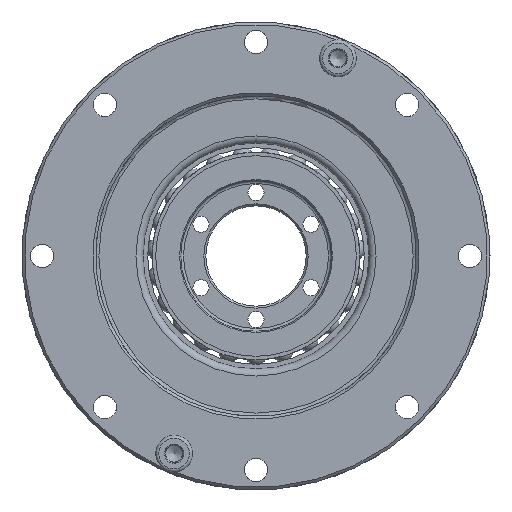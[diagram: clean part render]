
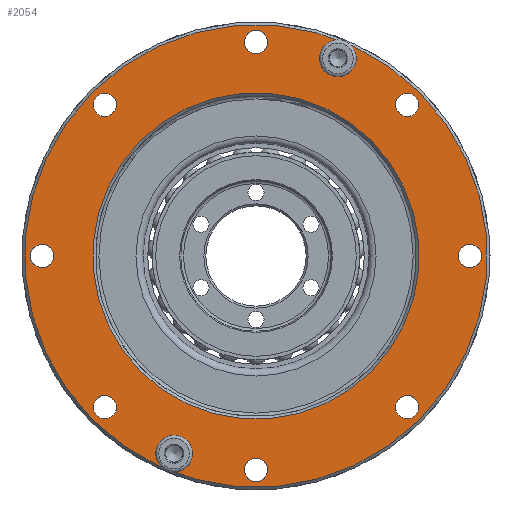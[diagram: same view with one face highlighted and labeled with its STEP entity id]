
A CAD part, left-side view. The second image highlights one B-rep face of the part: STEP entity #2054.
In plain terms, the highlighted planar face has unit normal (-1, 0, 0).
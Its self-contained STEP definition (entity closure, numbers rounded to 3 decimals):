
#2054=ADVANCED_FACE('',(#2852,#2853,#2854,#2855,#2856,#2857,#2858,#2859,
#2860,#2861,#2862,#2863),#2593,.T.);
#2593=PLANE('',#9055);
#2852=FACE_BOUND('',#3449,.T.);
#2853=FACE_BOUND('',#3450,.T.);
#2854=FACE_BOUND('',#3451,.T.);
#2855=FACE_BOUND('',#3452,.T.);
#2856=FACE_BOUND('',#3453,.T.);
#2857=FACE_BOUND('',#3454,.T.);
#2858=FACE_BOUND('',#3455,.T.);
#2859=FACE_BOUND('',#3456,.T.);
#2860=FACE_BOUND('',#3457,.T.);
#2861=FACE_BOUND('',#3458,.T.);
#2862=FACE_BOUND('',#3459,.T.);
#2863=FACE_BOUND('',#3460,.T.);
#3449=EDGE_LOOP('',(#4318));
#3450=EDGE_LOOP('',(#4319));
#3451=EDGE_LOOP('',(#4320));
#3452=EDGE_LOOP('',(#4321));
#3453=EDGE_LOOP('',(#4322));
#3454=EDGE_LOOP('',(#4323));
#3455=EDGE_LOOP('',(#4324));
#3456=EDGE_LOOP('',(#4325));
#3457=EDGE_LOOP('',(#4326));
#3458=EDGE_LOOP('',(#4327));
#3459=EDGE_LOOP('',(#4328));
#3460=EDGE_LOOP('',(#4329));
#4318=ORIENTED_EDGE('',*,*,#7326,.T.);
#4319=ORIENTED_EDGE('',*,*,#7328,.T.);
#4320=ORIENTED_EDGE('',*,*,#7330,.T.);
#4321=ORIENTED_EDGE('',*,*,#7332,.T.);
#4322=ORIENTED_EDGE('',*,*,#7334,.T.);
#4323=ORIENTED_EDGE('',*,*,#7336,.T.);
#4324=ORIENTED_EDGE('',*,*,#7338,.T.);
#4325=ORIENTED_EDGE('',*,*,#7340,.T.);
#4326=ORIENTED_EDGE('',*,*,#7342,.T.);
#4327=ORIENTED_EDGE('',*,*,#7344,.T.);
#4328=ORIENTED_EDGE('',*,*,#7350,.T.);
#4329=ORIENTED_EDGE('',*,*,#7347,.T.);
#6476=VERTEX_POINT('',#11940);
#6478=VERTEX_POINT('',#11945);
#6480=VERTEX_POINT('',#11950);
#6482=VERTEX_POINT('',#11955);
#6484=VERTEX_POINT('',#11960);
#6486=VERTEX_POINT('',#11965);
#6488=VERTEX_POINT('',#11970);
#6490=VERTEX_POINT('',#11975);
#6492=VERTEX_POINT('',#11980);
#6494=VERTEX_POINT('',#11985);
#6497=VERTEX_POINT('',#11993);
#6500=VERTEX_POINT('',#12000);
#7326=EDGE_CURVE('',#6476,#6476,#8446,.T.);
#7328=EDGE_CURVE('',#6478,#6478,#8448,.T.);
#7330=EDGE_CURVE('',#6480,#6480,#8450,.T.);
#7332=EDGE_CURVE('',#6482,#6482,#8452,.T.);
#7334=EDGE_CURVE('',#6484,#6484,#8454,.T.);
#7336=EDGE_CURVE('',#6486,#6486,#8456,.T.);
#7338=EDGE_CURVE('',#6488,#6488,#8458,.T.);
#7340=EDGE_CURVE('',#6490,#6490,#8460,.T.);
#7342=EDGE_CURVE('',#6492,#6492,#8462,.T.);
#7344=EDGE_CURVE('',#6494,#6494,#8464,.T.);
#7347=EDGE_CURVE('',#6497,#6497,#8467,.T.);
#7350=EDGE_CURVE('',#6500,#6500,#8470,.T.);
#8446=CIRCLE('',#9010,1.75);
#8448=CIRCLE('',#9013,1.75);
#8450=CIRCLE('',#9016,1.75);
#8452=CIRCLE('',#9019,1.75);
#8454=CIRCLE('',#9022,1.75);
#8456=CIRCLE('',#9025,1.75);
#8458=CIRCLE('',#9028,1.75);
#8460=CIRCLE('',#9031,1.75);
#8462=CIRCLE('',#9034,1.75);
#8464=CIRCLE('',#9037,1.75);
#8467=CIRCLE('',#9042,24.4);
#8470=CIRCLE('',#9046,34.6);
#9010=AXIS2_PLACEMENT_3D('',#11939,#9993,#9994);
#9013=AXIS2_PLACEMENT_3D('',#11944,#9999,#10000);
#9016=AXIS2_PLACEMENT_3D('',#11949,#10005,#10006);
#9019=AXIS2_PLACEMENT_3D('',#11954,#10011,#10012);
#9022=AXIS2_PLACEMENT_3D('',#11959,#10017,#10018);
#9025=AXIS2_PLACEMENT_3D('',#11964,#10023,#10024);
#9028=AXIS2_PLACEMENT_3D('',#11969,#10029,#10030);
#9031=AXIS2_PLACEMENT_3D('',#11974,#10035,#10036);
#9034=AXIS2_PLACEMENT_3D('',#11979,#10041,#10042);
#9037=AXIS2_PLACEMENT_3D('',#11984,#10047,#10048);
#9042=AXIS2_PLACEMENT_3D('',#11992,#10057,#10058);
#9046=AXIS2_PLACEMENT_3D('',#11999,#10065,#10066);
#9055=AXIS2_PLACEMENT_3D('',#12012,#10083,#10084);
#9993=DIRECTION('',(1.,0.,0.));
#9994=DIRECTION('',(0.,0.707,-0.707));
#9999=DIRECTION('',(1.,0.,0.));
#10000=DIRECTION('',(0.,0.707,-0.707));
#10005=DIRECTION('',(1.,0.,0.));
#10006=DIRECTION('',(0.,0.707,-0.707));
#10011=DIRECTION('',(1.,0.,0.));
#10012=DIRECTION('',(0.,0.707,-0.707));
#10017=DIRECTION('',(1.,0.,0.));
#10018=DIRECTION('',(0.,0.707,-0.707));
#10023=DIRECTION('',(1.,0.,0.));
#10024=DIRECTION('',(0.,0.707,-0.707));
#10029=DIRECTION('',(1.,0.,0.));
#10030=DIRECTION('',(0.,0.707,-0.707));
#10035=DIRECTION('',(1.,0.,0.));
#10036=DIRECTION('',(0.,0.707,-0.707));
#10041=DIRECTION('',(1.,0.,0.));
#10042=DIRECTION('',(0.,0.707,-0.707));
#10047=DIRECTION('',(1.,0.,0.));
#10048=DIRECTION('',(0.,0.707,-0.707));
#10057=DIRECTION('',(1.,0.,0.));
#10058=DIRECTION('',(0.,-0.707,0.707));
#10065=DIRECTION('',(-1.,0.,0.));
#10066=DIRECTION('',(0.,-0.707,0.707));
#10083=DIRECTION('',(-1.,0.,0.));
#10084=DIRECTION('',(0.,-0.707,0.707));
#11939=CARTESIAN_POINT('',(-23.5,12.246,-29.564));
#11940=CARTESIAN_POINT('',(-23.5,13.483,-30.802));
#11944=CARTESIAN_POINT('',(-23.5,-12.246,29.564));
#11945=CARTESIAN_POINT('',(-23.5,-11.008,28.327));
#11949=CARTESIAN_POINT('',(-23.5,32.,0.));
#11950=CARTESIAN_POINT('',(-23.5,33.237,-1.237));
#11954=CARTESIAN_POINT('',(-23.5,22.627,-22.627));
#11955=CARTESIAN_POINT('',(-23.5,23.865,-23.865));
#11959=CARTESIAN_POINT('',(-23.5,0.,-32.));
#11960=CARTESIAN_POINT('',(-23.5,1.237,-33.237));
#11964=CARTESIAN_POINT('',(-23.5,-22.627,-22.627));
#11965=CARTESIAN_POINT('',(-23.5,-21.39,-23.865));
#11969=CARTESIAN_POINT('',(-23.5,-32.,0.));
#11970=CARTESIAN_POINT('',(-23.5,-30.763,-1.237));
#11974=CARTESIAN_POINT('',(-23.5,-22.627,22.627));
#11975=CARTESIAN_POINT('',(-23.5,-21.39,21.39));
#11979=CARTESIAN_POINT('',(-23.5,0.,32.));
#11980=CARTESIAN_POINT('',(-23.5,1.237,30.763));
#11984=CARTESIAN_POINT('',(-23.5,22.627,22.627));
#11985=CARTESIAN_POINT('',(-23.5,23.865,21.39));
#11992=CARTESIAN_POINT('',(-23.5,0.,0.));
#11993=CARTESIAN_POINT('',(-23.5,-17.253,17.253));
#11999=CARTESIAN_POINT('',(-23.5,0.,0.));
#12000=CARTESIAN_POINT('',(-23.5,-24.466,24.466));
#12012=CARTESIAN_POINT('',(-23.5,16.971,16.971));
